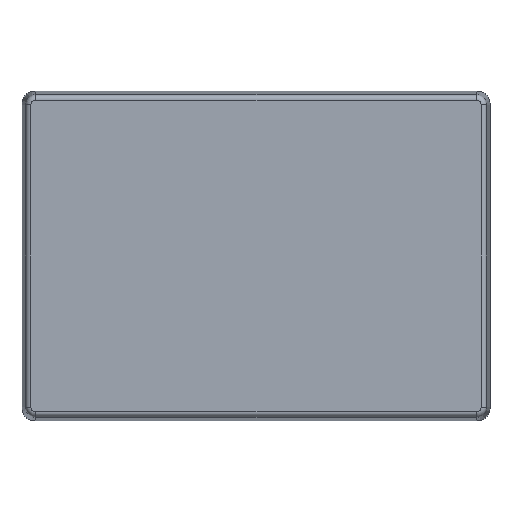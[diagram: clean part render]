
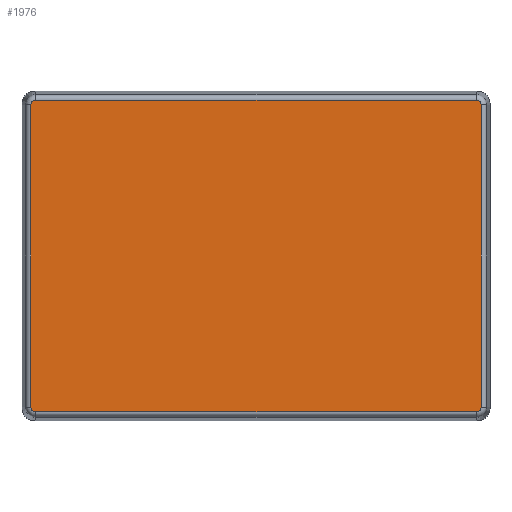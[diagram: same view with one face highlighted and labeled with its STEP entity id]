
A CAD part, front view. The second image highlights one B-rep face of the part: STEP entity #1976.
In plain terms, the highlighted planar face has unit normal (0, -1, 0).
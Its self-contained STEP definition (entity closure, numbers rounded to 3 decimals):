
#2 = VERTEX_POINT ( 'NONE', #6027 ) ;
#289 = LINE ( 'NONE', #8014, #6837 ) ;
#543 = CARTESIAN_POINT ( 'NONE',  ( -82.737, -50.2, -55.5 ) ) ;
#602 = CARTESIAN_POINT ( 'NONE',  ( 82.737, -50.2, 55.5 ) ) ;
#731 = CARTESIAN_POINT ( 'NONE',  ( -81., -50.2, 55.5 ) ) ;
#873 = ORIENTED_EDGE ( 'NONE', *, *, #5490, .T. ) ;
#924 = AXIS2_PLACEMENT_3D ( 'NONE', #2187, #4809, #3483 ) ;
#1170 = EDGE_CURVE ( 'NONE', #1450, #3351, #1879, .T. ) ;
#1286 = AXIS2_PLACEMENT_3D ( 'NONE', #1816, #3023, #5722 ) ;
#1382 = EDGE_CURVE ( 'NONE', #3697, #7679, #1623, .T. ) ;
#1450 = VERTEX_POINT ( 'NONE', #5572 ) ;
#1455 = PLANE ( 'NONE',  #924 ) ;
#1494 = ORIENTED_EDGE ( 'NONE', *, *, #4305, .T. ) ;
#1517 = EDGE_LOOP ( 'NONE', ( #5988, #7017, #4815, #1714, #1918, #6519, #873, #1494 ) ) ;
#1531 = CARTESIAN_POINT ( 'NONE',  ( 81., -50.2, 55.5 ) ) ;
#1623 = LINE ( 'NONE', #2347, #6254 ) ;
#1696 = CIRCLE ( 'NONE', #2356, 1.737 ) ;
#1714 = ORIENTED_EDGE ( 'NONE', *, *, #2873, .T. ) ;
#1816 = CARTESIAN_POINT ( 'NONE',  ( 81., -50.2, -55.5 ) ) ;
#1879 = CIRCLE ( 'NONE', #3532, 1.737 ) ;
#1918 = ORIENTED_EDGE ( 'NONE', *, *, #1382, .T. ) ;
#1976 = ADVANCED_FACE ( 'NONE', ( #4125 ), #1455, .T. ) ;
#2046 = DIRECTION ( 'NONE',  ( 0., 0., -1. ) ) ;
#2099 = EDGE_CURVE ( 'NONE', #2, #1450, #2442, .T. ) ;
#2187 = CARTESIAN_POINT ( 'NONE',  ( -81., -50.2, 55.5 ) ) ;
#2273 = DIRECTION ( 'NONE',  ( 1., 0., 0. ) ) ;
#2347 = CARTESIAN_POINT ( 'NONE',  ( -81., -50.2, -57.237 ) ) ;
#2356 = AXIS2_PLACEMENT_3D ( 'NONE', #1531, #8090, #2046 ) ;
#2381 = CIRCLE ( 'NONE', #1286, 1.737 ) ;
#2442 = LINE ( 'NONE', #5788, #2824 ) ;
#2495 = CARTESIAN_POINT ( 'NONE',  ( -81., -50.2, -57.237 ) ) ;
#2549 = VERTEX_POINT ( 'NONE', #2959 ) ;
#2824 = VECTOR ( 'NONE', #3698, 1000. ) ;
#2873 = EDGE_CURVE ( 'NONE', #4519, #3697, #6876, .T. ) ;
#2959 = CARTESIAN_POINT ( 'NONE',  ( 82.737, -50.2, -55.5 ) ) ;
#3023 = DIRECTION ( 'NONE',  ( 0., -1., 0. ) ) ;
#3073 = LINE ( 'NONE', #6319, #3905 ) ;
#3094 = EDGE_CURVE ( 'NONE', #7679, #2549, #2381, .T. ) ;
#3349 = DIRECTION ( 'NONE',  ( 0., -1., 0. ) ) ;
#3351 = VERTEX_POINT ( 'NONE', #4140 ) ;
#3483 = DIRECTION ( 'NONE',  ( 0., 0., -1. ) ) ;
#3532 = AXIS2_PLACEMENT_3D ( 'NONE', #731, #3349, #5962 ) ;
#3697 = VERTEX_POINT ( 'NONE', #2495 ) ;
#3698 = DIRECTION ( 'NONE',  ( -1., 0., 0. ) ) ;
#3703 = CARTESIAN_POINT ( 'NONE',  ( 81., -50.2, -57.237 ) ) ;
#3905 = VECTOR ( 'NONE', #4921, 1000. ) ;
#3943 = DIRECTION ( 'NONE',  ( 0., 0., -1. ) ) ;
#4125 = FACE_OUTER_BOUND ( 'NONE', #1517, .T. ) ;
#4140 = CARTESIAN_POINT ( 'NONE',  ( -82.737, -50.2, 55.5 ) ) ;
#4305 = EDGE_CURVE ( 'NONE', #5330, #2, #1696, .T. ) ;
#4372 = EDGE_CURVE ( 'NONE', #3351, #4519, #3073, .T. ) ;
#4519 = VERTEX_POINT ( 'NONE', #543 ) ;
#4809 = DIRECTION ( 'NONE',  ( 0., -1., 0. ) ) ;
#4815 = ORIENTED_EDGE ( 'NONE', *, *, #4372, .T. ) ;
#4921 = DIRECTION ( 'NONE',  ( 0., 0., -1. ) ) ;
#5217 = CARTESIAN_POINT ( 'NONE',  ( -81., -50.2, -55.5 ) ) ;
#5330 = VERTEX_POINT ( 'NONE', #602 ) ;
#5490 = EDGE_CURVE ( 'NONE', #2549, #5330, #289, .T. ) ;
#5572 = CARTESIAN_POINT ( 'NONE',  ( -81., -50.2, 57.237 ) ) ;
#5722 = DIRECTION ( 'NONE',  ( 0., 0., -1. ) ) ;
#5788 = CARTESIAN_POINT ( 'NONE',  ( -81., -50.2, 57.237 ) ) ;
#5962 = DIRECTION ( 'NONE',  ( 0., 0., -1. ) ) ;
#5988 = ORIENTED_EDGE ( 'NONE', *, *, #2099, .T. ) ;
#6027 = CARTESIAN_POINT ( 'NONE',  ( 81., -50.2, 57.237 ) ) ;
#6254 = VECTOR ( 'NONE', #2273, 1000. ) ;
#6319 = CARTESIAN_POINT ( 'NONE',  ( -82.737, -50.2, 55.5 ) ) ;
#6519 = ORIENTED_EDGE ( 'NONE', *, *, #3094, .T. ) ;
#6837 = VECTOR ( 'NONE', #7270, 1000. ) ;
#6876 = CIRCLE ( 'NONE', #7991, 1.737 ) ;
#7017 = ORIENTED_EDGE ( 'NONE', *, *, #1170, .T. ) ;
#7270 = DIRECTION ( 'NONE',  ( 0., 0., 1. ) ) ;
#7679 = VERTEX_POINT ( 'NONE', #3703 ) ;
#7832 = DIRECTION ( 'NONE',  ( 0., -1., 0. ) ) ;
#7991 = AXIS2_PLACEMENT_3D ( 'NONE', #5217, #7832, #3943 ) ;
#8014 = CARTESIAN_POINT ( 'NONE',  ( 82.737, -50.2, 55.5 ) ) ;
#8090 = DIRECTION ( 'NONE',  ( 0., -1., 0. ) ) ;
